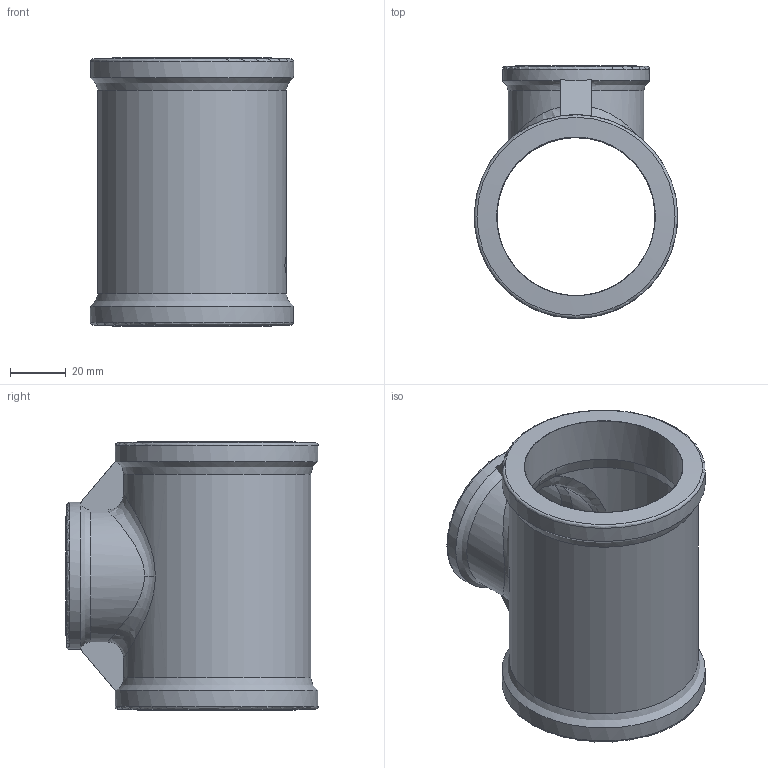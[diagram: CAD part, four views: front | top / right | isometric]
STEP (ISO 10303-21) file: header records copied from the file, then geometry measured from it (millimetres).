
FILE_DESCRIPTION((''),'2;1');
FILE_NAME('P:\Fastrack\53909_CRANE\Crane\Fig.161 Tee\New 2.00 inch\161-2.00x1.25.stp','2009-09-16T16:21:40',('btaylor'),(''),'Autodesk Inventor 2008','Autodesk Inventor 2008','');
FILE_SCHEMA(('AUTOMOTIVE_DESIGN { 1 0 10303 214 1 1 1 1 }'));
Length unit declared in the file: millimetre
Products named in the file (1): 161-2.00x1.25
Bounding box: 72.8 x 90.35 x 96 mm (x, y, z)
Volume: 112704.8 mm3; surface area: 46765 mm2
Topology: 1 solids, 1 shells, 60 faces, 165 edges, 109 vertices
Faces by surface type: bspline 24, plane 19, cylinder 11, torus 3, cone 3
Full cylindrical faces by diameter (mm): 41.4 x1, 52.7 x1, 72.8 x2
Entity records: 4273 total; most frequent: CARTESIAN_POINT 2929, ORIENTED_EDGE 288, DIRECTION 224, EDGE_CURVE 144, VERTEX_POINT 102, AXIS2_PLACEMENT_3D 93, EDGE_LOOP 80, FACE_OUTER_BOUND 60
